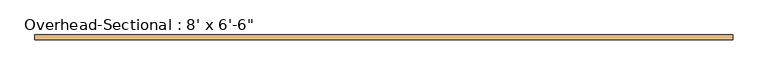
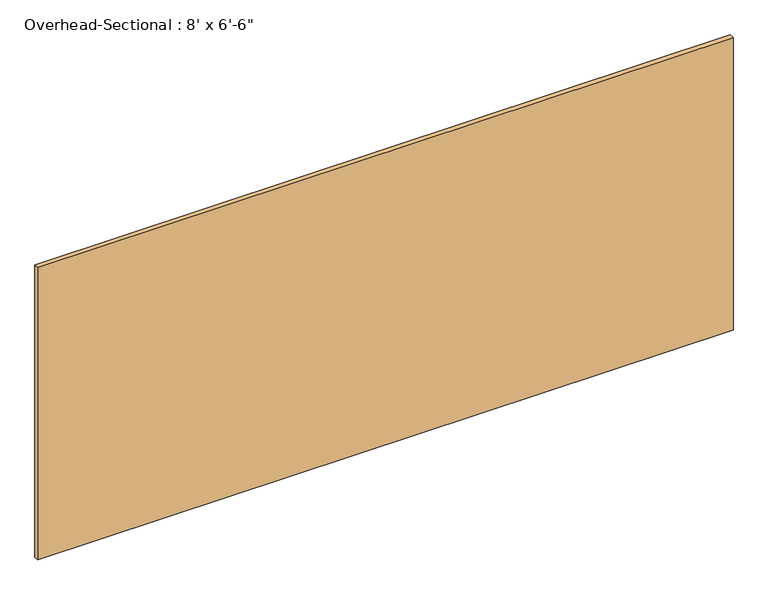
"""IFC4 building model written with IfcOpenShell, lengths in millimetres: door geometry."""

from ifc_helpers import new_model, si_unit, origin, origin_with_axes, place, context, project, spatial, polyline, outline, extrude, source, transform, mapped, element, save


def door_fd4a5b2c(model_context):
    return source(origin(), model_context, "Body", "SweptSolid", [
        extrude(outline(polyline([(2743.2, -101.6), (2743.2, -139.7), (-2743.2, -139.7), (-2743.2, -101.6), (2743.2, -101.6)])), origin_with_axes(), (0.0, 0.0, 1.0), 2438.4),
    ])


if __name__ == "__main__":
    model = new_model("IFC4")
    model_context = context("Model", 3, world=origin())
    ifc_project = project(units=[si_unit("LENGTHUNIT", "METRE", prefix="MILLI")], contexts=[model_context])
    site = spatial("IfcSite", under=ifc_project)
    building = spatial("IfcBuilding", under=site)
    placement = place(None, origin())
    door_shape = door_fd4a5b2c(model_context)
    element("IfcDoor", 1, ObjectType="Overhead-Sectional : 8' x 6'-6\"", at=placement, inside=building, context=model_context, shape_type="MappedRepresentation", body=[
        mapped(door_shape, transform((0.0, 0.0, 0.0), x_axis=(1.0, 0.0, 0.0), y_axis=(0.0, 1.0, 0.0), z_axis=(0.0, 0.0, 1.0))),
    ])
    save(model, "model.ifc")
